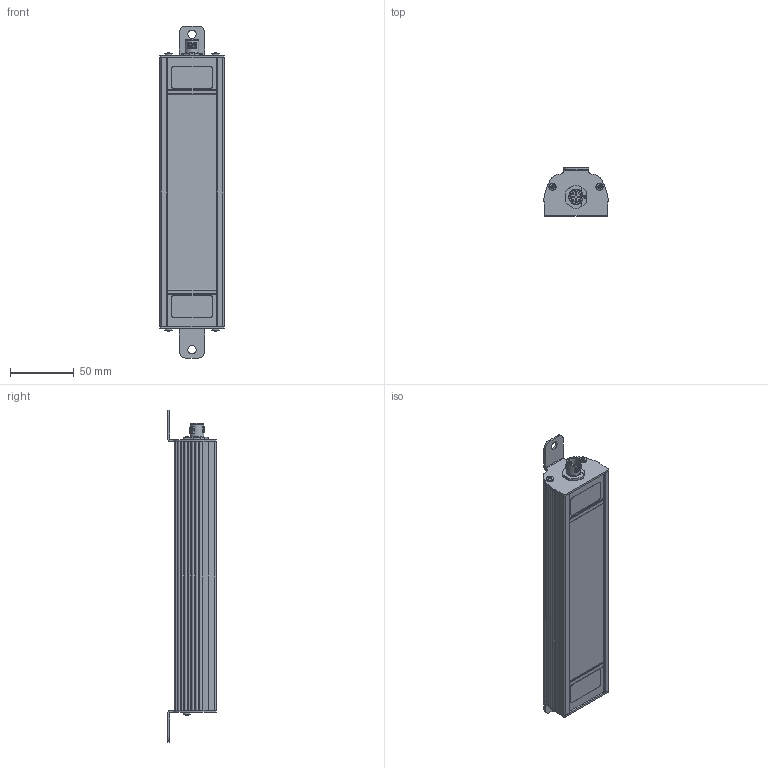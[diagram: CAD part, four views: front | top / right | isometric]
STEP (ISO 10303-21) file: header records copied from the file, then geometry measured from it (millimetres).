
FILE_DESCRIPTION (( 'STEP AP203' ), '1' );
FILE_NAME ('UV_LED_05 M12_24V.STEP', '2024-07-19T10:00:21', ( '' ), ( '' ), 'SwSTEP 2.0', 'SolidWorks 2024', '' );
FILE_SCHEMA (( 'CONFIG_CONTROL_DESIGN' ));
Length unit declared in the file: millimetre
Products named in the file (8): 00370187-Einbausteckverb.SACC-E-4Con-M16; Befestigungswinkel_f_WorkLED_fixed; Aluprofil_WorkLED_SE_UV-327; 00590210_Blechschraube_DIN7981_2,9x9,5_brüniert; Befestigungswinkel_Phönix_f_WorkLED_fixed; 00400295_Rahmen_Schalter_ohneFenster; Abdeckung_f. 1021_UV-327; UV_LED_05 M12_24V
Assembly tree (11 placements, depth 2):
  UV_LED_05 M12_24V
    Aluprofil_WorkLED_SE_UV-327
    00400295_Rahmen_Schalter_ohneFenster  x2
    00370187-Einbausteckverb.SACC-E-4Con-M16
    00590210_Blechschraube_DIN7981_2,9x9,5_brüniert  x4
    Abdeckung_f. 1021_UV-327
    Befestigungswinkel_f_WorkLED_fixed
    Befestigungswinkel_Phönix_f_WorkLED_fixed
Bounding box: 51.16 x 38 x 261.4 mm (x, y, z)
Volume: 92006.5 mm3; surface area: 112907.4 mm2
Topology: 11 solids, 11 shells, 884 faces, 2382 edges, 1535 vertices
Faces by surface type: plane 471, cylinder 305, bspline 99, cone 9
Full cylindrical faces by diameter (mm): 0.5 x3, 0.9 x4, 2.9 x4, 3.2 x4, 4 x4, 5.6 x4, 6.4 x2, 10.7 x1, 10.9 x1
Entity records: 29601 total; most frequent: CARTESIAN_POINT 10764, ORIENTED_EDGE 3878, DIRECTION 3533, EDGE_CURVE 1939, VERTEX_POINT 1263, AXIS2_PLACEMENT_3D 1178, LINE 1177, VECTOR 1177
